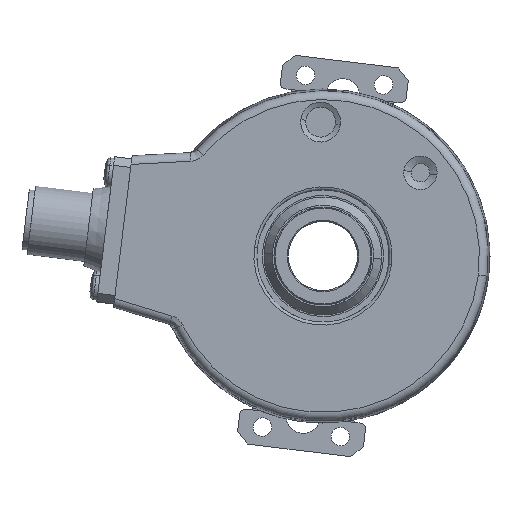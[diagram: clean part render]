
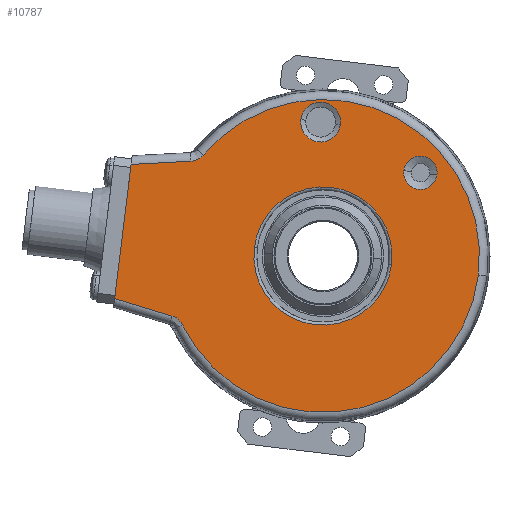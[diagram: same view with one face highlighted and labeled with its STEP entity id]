
A CAD part, left-side view. The second image highlights one B-rep face of the part: STEP entity #10787.
In plain terms, the highlighted planar face has unit normal (-1, 0, 0).
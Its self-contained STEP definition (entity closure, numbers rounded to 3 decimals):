
#76 = AXIS2_PLACEMENT_3D ( 'NONE', #145, #144, #143 ) ;
#77 = CIRCLE ( 'NONE', #76, 3.466 ) ;
#91 = CARTESIAN_POINT ( 'NONE',  ( -19., 20.777, 17.512 ) ) ;
#92 = CARTESIAN_POINT ( 'NONE',  ( -19., -26.97, -3.312 ) ) ;
#93 = DIRECTION ( 'NONE',  ( 0., -0.993, -0.122 ) ) ;
#94 = DIRECTION ( 'NONE',  ( -1., 0., 0. ) ) ;
#95 = CARTESIAN_POINT ( 'NONE',  ( -19., 0., 0. ) ) ;
#96 = AXIS2_PLACEMENT_3D ( 'NONE', #95, #94, #93 ) ;
#97 = CIRCLE ( 'NONE', #96, 27.173 ) ;
#103 = DIRECTION ( 'NONE',  ( 0., -0.993, -0.122 ) ) ;
#104 = DIRECTION ( 'NONE',  ( 1., 0., 0. ) ) ;
#105 = CARTESIAN_POINT ( 'NONE',  ( -19., 0., 0. ) ) ;
#106 = AXIS2_PLACEMENT_3D ( 'NONE', #105, #104, #103 ) ;
#107 = CIRCLE ( 'NONE', #106, 12. ) ;
#142 = CARTESIAN_POINT ( 'NONE',  ( -19., 3.846, 23.669 ) ) ;
#143 = DIRECTION ( 'NONE',  ( 0., -0.993, -0.122 ) ) ;
#144 = DIRECTION ( 'NONE',  ( 1., 0., 0. ) ) ;
#145 = CARTESIAN_POINT ( 'NONE',  ( -19., 0.406, 23.246 ) ) ;
#215 = CARTESIAN_POINT ( 'NONE',  ( -19., -3.034, 22.824 ) ) ;
#220 = CARTESIAN_POINT ( 'NONE',  ( -19., -11.911, -1.462 ) ) ;
#250 = CARTESIAN_POINT ( 'NONE',  ( -19., -14.042, 14.804 ) ) ;
#251 = DIRECTION ( 'NONE',  ( 0., -0.993, -0.122 ) ) ;
#252 = DIRECTION ( 'NONE',  ( 1., 0., 0. ) ) ;
#253 = CARTESIAN_POINT ( 'NONE',  ( -19., -16.919, 14.45 ) ) ;
#254 = AXIS2_PLACEMENT_3D ( 'NONE', #253, #252, #251 ) ;
#255 = CIRCLE ( 'NONE', #254, 2.899 ) ;
#351 = CARTESIAN_POINT ( 'NONE',  ( -19., -19.796, 14.097 ) ) ;
#518 = CARTESIAN_POINT ( 'NONE',  ( -19., 11.911, 1.462 ) ) ;
#3616 = CARTESIAN_POINT ( 'NONE',  ( -19., 22.914, 16.45 ) ) ;
#3788 = CARTESIAN_POINT ( 'NONE',  ( -19., 33.31, 15.905 ) ) ;
#3789 = DIRECTION ( 'NONE',  ( 0., 0.999, -0.052 ) ) ;
#3790 = VECTOR ( 'NONE', #3789, 1000. ) ;
#3791 = CARTESIAN_POINT ( 'NONE',  ( -19., 33.046, 15.919 ) ) ;
#3792 = LINE ( 'NONE', #3791, #3790 ) ;
#10713 = EDGE_CURVE ( 'NONE', #10767, #10752, #11743, .T. ) ;
#10718 = EDGE_CURVE ( 'NONE', #10721, #10752, #11773, .T. ) ;
#10721 = VERTEX_POINT ( 'NONE', #11772 ) ;
#10727 = EDGE_CURVE ( 'NONE', #10721, #16350, #11801, .T. ) ;
#10752 = VERTEX_POINT ( 'NONE', #11989 ) ;
#10755 = EDGE_CURVE ( 'NONE', #10767, #17255, #11982, .T. ) ;
#10767 = VERTEX_POINT ( 'NONE', #12028 ) ;
#10786 = EDGE_CURVE ( 'NONE', #16388, #16366, #12004, .T. ) ;
#10787 = ADVANCED_FACE ( 'NONE', ( #12061, #12060, #12059, #12058 ), #12043, .F. ) ;
#10789 = EDGE_LOOP ( 'NONE', ( #10974, #10975 ) ) ;
#10790 = EDGE_CURVE ( 'NONE', #16462, #16385, #12042, .T. ) ;
#10835 = EDGE_CURVE ( 'NONE', #17206, #16351, #12307, .T. ) ;
#10852 = ORIENTED_EDGE ( 'NONE', *, *, #10835, .F. ) ;
#10853 = ORIENTED_EDGE ( 'NONE', *, *, #17254, .T. ) ;
#10854 = ORIENTED_EDGE ( 'NONE', *, *, #10755, .F. ) ;
#10861 = ORIENTED_EDGE ( 'NONE', *, *, #10713, .T. ) ;
#10864 = ORIENTED_EDGE ( 'NONE', *, *, #10718, .F. ) ;
#10867 = ORIENTED_EDGE ( 'NONE', *, *, #10727, .T. ) ;
#10883 = ORIENTED_EDGE ( 'NONE', *, *, #16365, .T. ) ;
#10885 = ORIENTED_EDGE ( 'NONE', *, *, #10786, .T. ) ;
#10886 = EDGE_LOOP ( 'NONE', ( #10887, #10888 ) ) ;
#10887 = ORIENTED_EDGE ( 'NONE', *, *, #16345, .T. ) ;
#10888 = ORIENTED_EDGE ( 'NONE', *, *, #10790, .T. ) ;
#10891 = EDGE_LOOP ( 'NONE', ( #10852, #10853, #10854, #10861, #10864, #10867, #10905 ) ) ;
#10905 = ORIENTED_EDGE ( 'NONE', *, *, #16349, .T. ) ;
#10974 = ORIENTED_EDGE ( 'NONE', *, *, #16394, .T. ) ;
#10975 = ORIENTED_EDGE ( 'NONE', *, *, #10977, .T. ) ;
#10977 = EDGE_CURVE ( 'NONE', #16419, #16395, #12546, .T. ) ;
#10981 = EDGE_LOOP ( 'NONE', ( #10883, #10885 ) ) ;
#11740 = DIRECTION ( 'NONE',  ( 0., -0.956, -0.292 ) ) ;
#11741 = VECTOR ( 'NONE', #11740, 1000. ) ;
#11742 = CARTESIAN_POINT ( 'NONE',  ( -19., 25.556, -10.618 ) ) ;
#11743 = LINE ( 'NONE', #11742, #11741 ) ;
#11755 = CARTESIAN_POINT ( 'NONE',  ( -19., 26.213, -10.418 ) ) ;
#11756 = CARTESIAN_POINT ( 'NONE',  ( -19., 26.016, -10.478 ) ) ;
#11757 = CARTESIAN_POINT ( 'NONE',  ( -19., 25.828, -10.557 ) ) ;
#11758 = CARTESIAN_POINT ( 'NONE',  ( -19., 25.471, -10.753 ) ) ;
#11759 = CARTESIAN_POINT ( 'NONE',  ( -19., 25.3, -10.87 ) ) ;
#11760 = CARTESIAN_POINT ( 'NONE',  ( -19., 24.989, -11.135 ) ) ;
#11761 = CARTESIAN_POINT ( 'NONE',  ( -19., 24.848, -11.282 ) ) ;
#11762 = CARTESIAN_POINT ( 'NONE',  ( -19., 24.597, -11.605 ) ) ;
#11763 = CARTESIAN_POINT ( 'NONE',  ( -19., 24.487, -11.781 ) ) ;
#11764 = CARTESIAN_POINT ( 'NONE',  ( -19., 24.396, -11.966 ) ) ;
#11772 = CARTESIAN_POINT ( 'NONE',  ( -19., 24.396, -11.966 ) ) ;
#11773 = B_SPLINE_CURVE_WITH_KNOTS ( 'NONE', 3,
 ( #11764, #11763, #11762, #11761, #11760, #11759, #11758, #11757, #11756, #11755 ),
 .UNSPECIFIED., .F., .F.,
 ( 4, 2, 2, 2, 4 ),
 ( 0., 0.001, 0.001, 0.002, 0.002 ),
 .UNSPECIFIED. ) ;
#11794 = DIRECTION ( 'NONE',  ( 0., -0.993, -0.122 ) ) ;
#11795 = DIRECTION ( 'NONE',  ( -1., 0., 0. ) ) ;
#11796 = CARTESIAN_POINT ( 'NONE',  ( -19., 0., 0. ) ) ;
#11797 = AXIS2_PLACEMENT_3D ( 'NONE', #11796, #11795, #11794 ) ;
#11801 = CIRCLE ( 'NONE', #11797, 27.173 ) ;
#11982 = LINE ( 'NONE', #12032, #12031 ) ;
#11989 = CARTESIAN_POINT ( 'NONE',  ( -19., 26.213, -10.418 ) ) ;
#12001 = DIRECTION ( 'NONE',  ( 1., 0., 0. ) ) ;
#12002 = CARTESIAN_POINT ( 'NONE',  ( -19., 0.406, 23.246 ) ) ;
#12003 = AXIS2_PLACEMENT_3D ( 'NONE', #12002, #12001, #12062 ) ;
#12004 = CIRCLE ( 'NONE', #12003, 3.466 ) ;
#12028 = CARTESIAN_POINT ( 'NONE',  ( -19., 36.168, -7.374 ) ) ;
#12030 = DIRECTION ( 'NONE',  ( 0., -0.122, 0.993 ) ) ;
#12031 = VECTOR ( 'NONE', #12030, 1000. ) ;
#12032 = CARTESIAN_POINT ( 'NONE',  ( -19., 36.354, -8.886 ) ) ;
#12033 = DIRECTION ( 'NONE',  ( 0., -0.993, -0.122 ) ) ;
#12034 = DIRECTION ( 'NONE',  ( 1., 0., 0. ) ) ;
#12035 = CARTESIAN_POINT ( 'NONE',  ( -19., 0., 0. ) ) ;
#12036 = AXIS2_PLACEMENT_3D ( 'NONE', #12035, #12034, #12033 ) ;
#12038 = DIRECTION ( 'NONE',  ( 0., -0.993, -0.122 ) ) ;
#12039 = DIRECTION ( 'NONE',  ( 1., 0., 0. ) ) ;
#12040 = CARTESIAN_POINT ( 'NONE',  ( -19., 0., 0. ) ) ;
#12041 = AXIS2_PLACEMENT_3D ( 'NONE', #12040, #12039, #12038 ) ;
#12042 = CIRCLE ( 'NONE', #12036, 12. ) ;
#12043 = PLANE ( 'NONE',  #12041 ) ;
#12058 = FACE_OUTER_BOUND ( 'NONE', #10891, .T. ) ;
#12059 = FACE_BOUND ( 'NONE', #10886, .T. ) ;
#12060 = FACE_BOUND ( 'NONE', #10981, .T. ) ;
#12061 = FACE_BOUND ( 'NONE', #10789, .T. ) ;
#12062 = DIRECTION ( 'NONE',  ( 0., -0.993, -0.122 ) ) ;
#12290 = CARTESIAN_POINT ( 'NONE',  ( -19., 20.777, 17.512 ) ) ;
#12291 = CARTESIAN_POINT ( 'NONE',  ( -19., 20.91, 17.355 ) ) ;
#12292 = CARTESIAN_POINT ( 'NONE',  ( -19., 21.056, 17.213 ) ) ;
#12293 = CARTESIAN_POINT ( 'NONE',  ( -19., 21.376, 16.962 ) ) ;
#12294 = CARTESIAN_POINT ( 'NONE',  ( -19., 21.552, 16.851 ) ) ;
#12295 = CARTESIAN_POINT ( 'NONE',  ( -19., 21.917, 16.669 ) ) ;
#12296 = CARTESIAN_POINT ( 'NONE',  ( -19., 22.108, 16.597 ) ) ;
#12297 = CARTESIAN_POINT ( 'NONE',  ( -19., 22.503, 16.493 ) ) ;
#12298 = CARTESIAN_POINT ( 'NONE',  ( -19., 22.708, 16.461 ) ) ;
#12299 = CARTESIAN_POINT ( 'NONE',  ( -19., 22.914, 16.45 ) ) ;
#12307 = B_SPLINE_CURVE_WITH_KNOTS ( 'NONE', 3,
 ( #12299, #12298, #12297, #12296, #12295, #12294, #12293, #12292, #12291, #12290 ),
 .UNSPECIFIED., .F., .F.,
 ( 4, 2, 2, 2, 4 ),
 ( 0., 0.001, 0.001, 0.002, 0.002 ),
 .UNSPECIFIED. ) ;
#12538 = DIRECTION ( 'NONE',  ( 0., -0.993, -0.122 ) ) ;
#12539 = DIRECTION ( 'NONE',  ( 1., 0., 0. ) ) ;
#12540 = CARTESIAN_POINT ( 'NONE',  ( -19., -16.919, 14.45 ) ) ;
#12541 = AXIS2_PLACEMENT_3D ( 'NONE', #12540, #12539, #12538 ) ;
#12546 = CIRCLE ( 'NONE', #12541, 2.899 ) ;
#16345 = EDGE_CURVE ( 'NONE', #16385, #16462, #107, .T. ) ;
#16349 = EDGE_CURVE ( 'NONE', #16350, #16351, #97, .T. ) ;
#16350 = VERTEX_POINT ( 'NONE', #92 ) ;
#16351 = VERTEX_POINT ( 'NONE', #91 ) ;
#16365 = EDGE_CURVE ( 'NONE', #16366, #16388, #77, .T. ) ;
#16366 = VERTEX_POINT ( 'NONE', #142 ) ;
#16385 = VERTEX_POINT ( 'NONE', #220 ) ;
#16388 = VERTEX_POINT ( 'NONE', #215 ) ;
#16394 = EDGE_CURVE ( 'NONE', #16395, #16419, #255, .T. ) ;
#16395 = VERTEX_POINT ( 'NONE', #250 ) ;
#16419 = VERTEX_POINT ( 'NONE', #351 ) ;
#16462 = VERTEX_POINT ( 'NONE', #518 ) ;
#17206 = VERTEX_POINT ( 'NONE', #3616 ) ;
#17254 = EDGE_CURVE ( 'NONE', #17206, #17255, #3792, .T. ) ;
#17255 = VERTEX_POINT ( 'NONE', #3788 ) ;
